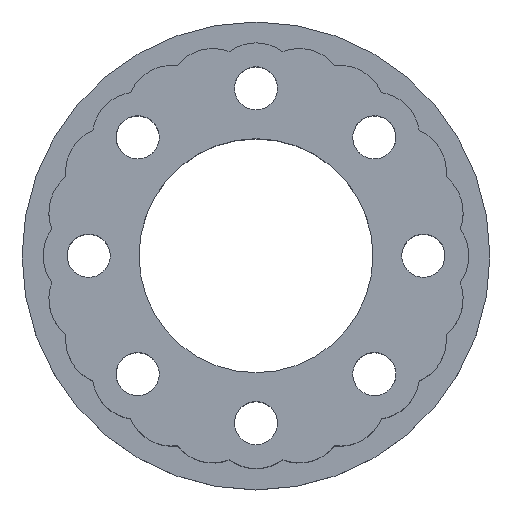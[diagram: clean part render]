
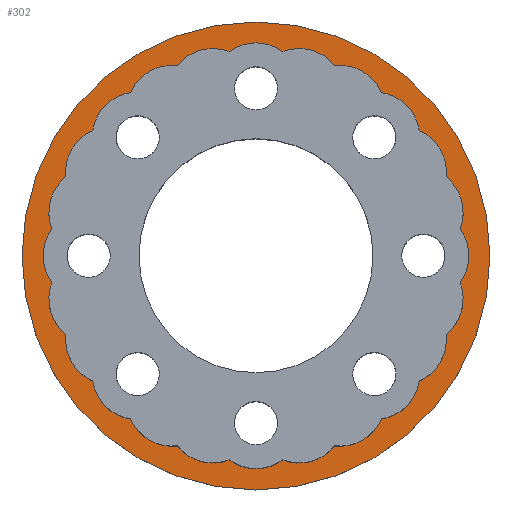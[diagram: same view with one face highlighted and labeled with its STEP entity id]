
A CAD part, top view. The second image highlights one B-rep face of the part: STEP entity #302.
In plain terms, the highlighted planar face has unit normal (0, 0, 1).
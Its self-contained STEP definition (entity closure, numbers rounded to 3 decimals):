
#68=CARTESIAN_POINT('',(0.0,0.0,-3.0));
#69=DIRECTION('',(0.0,0.0,1.0));
#70=DIRECTION('',(1.0,0.0,0.0));
#71=AXIS2_PLACEMENT_3D('',#68,#69,#70);
#72=PLANE('',#71);
#73=CARTESIAN_POINT('',(-13.0,0.,-3.0));
#74=VERTEX_POINT('',#73);
#75=CARTESIAN_POINT('',(0.0,0.0,-3.0));
#76=DIRECTION('',(0.0,0.0,-1.0));
#77=DIRECTION('',(1.0,0.0,0.0));
#78=AXIS2_PLACEMENT_3D('',#75,#76,#77);
#79=CIRCLE('',#78,13.0);
#80=EDGE_CURVE('',#74,#74,#79,.T.);
#81=ORIENTED_EDGE('',*,*,#80,.F.);
#82=EDGE_LOOP('',(#81));
#83=FACE_OUTER_BOUND('',#82,.T.);
#84=CARTESIAN_POINT('',(4.376,10.564,-3.0));
#85=VERTEX_POINT('',#84);
#86=CARTESIAN_POINT('',(1.493,11.337,-3.0));
#87=VERTEX_POINT('',#86);
#88=CARTESIAN_POINT('',(2.407,8.983,-3.0));
#89=DIRECTION('',(0.0,0.0,1.0));
#90=DIRECTION('',(-0.966,0.259,0.0));
#91=AXIS2_PLACEMENT_3D('',#88,#89,#90);
#92=CIRCLE('',#91,2.525);
#93=EDGE_CURVE('',#85,#87,#92,.T.);
#94=ORIENTED_EDGE('',*,*,#93,.F.);
#95=CARTESIAN_POINT('',(6.961,9.072,-3.0));
#96=VERTEX_POINT('',#95);
#97=CARTESIAN_POINT('',(4.65,8.054,-3.0));
#98=DIRECTION('',(0.0,0.0,1.));
#99=DIRECTION('',(-0.866,0.5,0.0));
#100=AXIS2_PLACEMENT_3D('',#97,#98,#99);
#101=CIRCLE('',#100,2.525);
#102=EDGE_CURVE('',#96,#85,#101,.T.);
#103=ORIENTED_EDGE('',*,*,#102,.F.);
#104=CARTESIAN_POINT('',(9.072,6.961,-3.0));
#105=VERTEX_POINT('',#104);
#106=CARTESIAN_POINT('',(6.576,6.576,-3.0));
#107=DIRECTION('',(0.0,0.0,1.0));
#108=DIRECTION('',(-0.707,0.707,0.0));
#109=AXIS2_PLACEMENT_3D('',#106,#107,#108);
#110=CIRCLE('',#109,2.525);
#111=EDGE_CURVE('',#105,#96,#110,.T.);
#112=ORIENTED_EDGE('',*,*,#111,.F.);
#113=CARTESIAN_POINT('',(10.564,4.376,-3.0));
#114=VERTEX_POINT('',#113);
#115=CARTESIAN_POINT('',(8.054,4.65,-3.0));
#116=DIRECTION('',(0.0,0.0,1.));
#117=DIRECTION('',(-0.5,0.866,0.0));
#118=AXIS2_PLACEMENT_3D('',#115,#116,#117);
#119=CIRCLE('',#118,2.525);
#120=EDGE_CURVE('',#114,#105,#119,.T.);
#121=ORIENTED_EDGE('',*,*,#120,.F.);
#122=CARTESIAN_POINT('',(11.337,1.493,-3.0));
#123=VERTEX_POINT('',#122);
#124=CARTESIAN_POINT('',(8.983,2.407,-3.0));
#125=DIRECTION('',(0.0,0.0,1.0));
#126=DIRECTION('',(-0.259,0.966,0.0));
#127=AXIS2_PLACEMENT_3D('',#124,#125,#126);
#128=CIRCLE('',#127,2.525);
#129=EDGE_CURVE('',#123,#114,#128,.T.);
#130=ORIENTED_EDGE('',*,*,#129,.F.);
#131=CARTESIAN_POINT('',(11.337,-1.493,-3.0));
#132=VERTEX_POINT('',#131);
#133=CARTESIAN_POINT('',(9.3,0.,-3.0));
#134=DIRECTION('',(0.0,0.0,1.0));
#135=DIRECTION('',(0.0,1.0,0.0));
#136=AXIS2_PLACEMENT_3D('',#133,#134,#135);
#137=CIRCLE('',#136,2.525);
#138=EDGE_CURVE('',#132,#123,#137,.T.);
#139=ORIENTED_EDGE('',*,*,#138,.F.);
#140=CARTESIAN_POINT('',(10.564,-4.376,-3.0));
#141=VERTEX_POINT('',#140);
#142=CARTESIAN_POINT('',(8.983,-2.407,-3.0));
#143=DIRECTION('',(0.0,0.0,1.0));
#144=DIRECTION('',(0.259,0.966,0.0));
#145=AXIS2_PLACEMENT_3D('',#142,#143,#144);
#146=CIRCLE('',#145,2.525);
#147=EDGE_CURVE('',#141,#132,#146,.T.);
#148=ORIENTED_EDGE('',*,*,#147,.F.);
#149=CARTESIAN_POINT('',(9.072,-6.961,-3.0));
#150=VERTEX_POINT('',#149);
#151=CARTESIAN_POINT('',(8.054,-4.65,-3.0));
#152=DIRECTION('',(0.0,0.0,1.));
#153=DIRECTION('',(0.5,0.866,0.0));
#154=AXIS2_PLACEMENT_3D('',#151,#152,#153);
#155=CIRCLE('',#154,2.525);
#156=EDGE_CURVE('',#150,#141,#155,.T.);
#157=ORIENTED_EDGE('',*,*,#156,.F.);
#158=CARTESIAN_POINT('',(6.961,-9.072,-3.0));
#159=VERTEX_POINT('',#158);
#160=CARTESIAN_POINT('',(6.576,-6.576,-3.0));
#161=DIRECTION('',(0.0,0.0,1.));
#162=DIRECTION('',(0.707,0.707,0.0));
#163=AXIS2_PLACEMENT_3D('',#160,#161,#162);
#164=CIRCLE('',#163,2.525);
#165=EDGE_CURVE('',#159,#150,#164,.T.);
#166=ORIENTED_EDGE('',*,*,#165,.F.);
#167=CARTESIAN_POINT('',(4.376,-10.564,-3.0));
#168=VERTEX_POINT('',#167);
#169=CARTESIAN_POINT('',(4.65,-8.054,-3.0));
#170=DIRECTION('',(0.0,0.0,1.));
#171=DIRECTION('',(0.866,0.5,0.0));
#172=AXIS2_PLACEMENT_3D('',#169,#170,#171);
#173=CIRCLE('',#172,2.525);
#174=EDGE_CURVE('',#168,#159,#173,.T.);
#175=ORIENTED_EDGE('',*,*,#174,.F.);
#176=CARTESIAN_POINT('',(1.493,-11.337,-3.0));
#177=VERTEX_POINT('',#176);
#178=CARTESIAN_POINT('',(2.407,-8.983,-3.0));
#179=DIRECTION('',(0.0,0.0,1.0));
#180=DIRECTION('',(0.966,0.259,0.0));
#181=AXIS2_PLACEMENT_3D('',#178,#179,#180);
#182=CIRCLE('',#181,2.525);
#183=EDGE_CURVE('',#177,#168,#182,.T.);
#184=ORIENTED_EDGE('',*,*,#183,.F.);
#185=CARTESIAN_POINT('',(-1.493,-11.337,-3.0));
#186=VERTEX_POINT('',#185);
#187=CARTESIAN_POINT('',(0.,-9.3,-3.0));
#188=DIRECTION('',(0.0,0.0,1.0));
#189=DIRECTION('',(1.0,0.0,0.0));
#190=AXIS2_PLACEMENT_3D('',#187,#188,#189);
#191=CIRCLE('',#190,2.525);
#192=EDGE_CURVE('',#186,#177,#191,.T.);
#193=ORIENTED_EDGE('',*,*,#192,.F.);
#194=CARTESIAN_POINT('',(-4.376,-10.564,-3.0));
#195=VERTEX_POINT('',#194);
#196=CARTESIAN_POINT('',(-2.407,-8.983,-3.0));
#197=DIRECTION('',(0.0,0.0,1.));
#198=DIRECTION('',(0.966,-0.259,0.0));
#199=AXIS2_PLACEMENT_3D('',#196,#197,#198);
#200=CIRCLE('',#199,2.525);
#201=EDGE_CURVE('',#195,#186,#200,.T.);
#202=ORIENTED_EDGE('',*,*,#201,.F.);
#203=CARTESIAN_POINT('',(-6.961,-9.072,-3.0));
#204=VERTEX_POINT('',#203);
#205=CARTESIAN_POINT('',(-4.65,-8.054,-3.0));
#206=DIRECTION('',(0.0,0.0,1.));
#207=DIRECTION('',(0.866,-0.5,0.0));
#208=AXIS2_PLACEMENT_3D('',#205,#206,#207);
#209=CIRCLE('',#208,2.525);
#210=EDGE_CURVE('',#204,#195,#209,.T.);
#211=ORIENTED_EDGE('',*,*,#210,.F.);
#212=CARTESIAN_POINT('',(-9.072,-6.961,-3.0));
#213=VERTEX_POINT('',#212);
#214=CARTESIAN_POINT('',(-6.576,-6.576,-3.0));
#215=DIRECTION('',(0.0,0.0,1.0));
#216=DIRECTION('',(0.707,-0.707,0.0));
#217=AXIS2_PLACEMENT_3D('',#214,#215,#216);
#218=CIRCLE('',#217,2.525);
#219=EDGE_CURVE('',#213,#204,#218,.T.);
#220=ORIENTED_EDGE('',*,*,#219,.F.);
#221=CARTESIAN_POINT('',(-10.564,-4.376,-3.0));
#222=VERTEX_POINT('',#221);
#223=CARTESIAN_POINT('',(-8.054,-4.65,-3.0));
#224=DIRECTION('',(0.0,0.0,1.));
#225=DIRECTION('',(0.5,-0.866,0.0));
#226=AXIS2_PLACEMENT_3D('',#223,#224,#225);
#227=CIRCLE('',#226,2.525);
#228=EDGE_CURVE('',#222,#213,#227,.T.);
#229=ORIENTED_EDGE('',*,*,#228,.F.);
#230=CARTESIAN_POINT('',(-11.337,-1.493,-3.0));
#231=VERTEX_POINT('',#230);
#232=CARTESIAN_POINT('',(-8.983,-2.407,-3.0));
#233=DIRECTION('',(0.0,0.0,1.0));
#234=DIRECTION('',(0.259,-0.966,0.0));
#235=AXIS2_PLACEMENT_3D('',#232,#233,#234);
#236=CIRCLE('',#235,2.525);
#237=EDGE_CURVE('',#231,#222,#236,.T.);
#238=ORIENTED_EDGE('',*,*,#237,.F.);
#239=CARTESIAN_POINT('',(-11.337,1.493,-3.0));
#240=VERTEX_POINT('',#239);
#241=CARTESIAN_POINT('',(-9.3,0.,-3.0));
#242=DIRECTION('',(0.0,0.0,1.0));
#243=DIRECTION('',(0.0,-1.0,0.0));
#244=AXIS2_PLACEMENT_3D('',#241,#242,#243);
#245=CIRCLE('',#244,2.525);
#246=EDGE_CURVE('',#240,#231,#245,.T.);
#247=ORIENTED_EDGE('',*,*,#246,.F.);
#248=CARTESIAN_POINT('',(-10.564,4.376,-3.0));
#249=VERTEX_POINT('',#248);
#250=CARTESIAN_POINT('',(-8.983,2.407,-3.0));
#251=DIRECTION('',(0.0,0.0,1.));
#252=DIRECTION('',(-0.259,-0.966,0.0));
#253=AXIS2_PLACEMENT_3D('',#250,#251,#252);
#254=CIRCLE('',#253,2.525);
#255=EDGE_CURVE('',#249,#240,#254,.T.);
#256=ORIENTED_EDGE('',*,*,#255,.F.);
#257=CARTESIAN_POINT('',(-9.072,6.961,-3.0));
#258=VERTEX_POINT('',#257);
#259=CARTESIAN_POINT('',(-8.054,4.65,-3.0));
#260=DIRECTION('',(0.0,0.0,1.0));
#261=DIRECTION('',(-0.5,-0.866,0.0));
#262=AXIS2_PLACEMENT_3D('',#259,#260,#261);
#263=CIRCLE('',#262,2.525);
#264=EDGE_CURVE('',#258,#249,#263,.T.);
#265=ORIENTED_EDGE('',*,*,#264,.F.);
#266=CARTESIAN_POINT('',(-6.961,9.072,-3.0));
#267=VERTEX_POINT('',#266);
#268=CARTESIAN_POINT('',(-6.576,6.576,-3.0));
#269=DIRECTION('',(0.0,0.0,1.0));
#270=DIRECTION('',(-0.707,-0.707,0.0));
#271=AXIS2_PLACEMENT_3D('',#268,#269,#270);
#272=CIRCLE('',#271,2.525);
#273=EDGE_CURVE('',#267,#258,#272,.T.);
#274=ORIENTED_EDGE('',*,*,#273,.F.);
#275=CARTESIAN_POINT('',(-4.376,10.564,-3.0));
#276=VERTEX_POINT('',#275);
#277=CARTESIAN_POINT('',(-4.65,8.054,-3.0));
#278=DIRECTION('',(0.0,0.0,1.0));
#279=DIRECTION('',(-0.866,-0.5,0.0));
#280=AXIS2_PLACEMENT_3D('',#277,#278,#279);
#281=CIRCLE('',#280,2.525);
#282=EDGE_CURVE('',#276,#267,#281,.T.);
#283=ORIENTED_EDGE('',*,*,#282,.F.);
#284=CARTESIAN_POINT('',(-1.493,11.337,-3.0));
#285=VERTEX_POINT('',#284);
#286=CARTESIAN_POINT('',(-2.407,8.983,-3.0));
#287=DIRECTION('',(0.0,0.0,1.0));
#288=DIRECTION('',(-0.966,-0.259,0.0));
#289=AXIS2_PLACEMENT_3D('',#286,#287,#288);
#290=CIRCLE('',#289,2.525);
#291=EDGE_CURVE('',#285,#276,#290,.T.);
#292=ORIENTED_EDGE('',*,*,#291,.F.);
#293=CARTESIAN_POINT('',(0.0,9.3,-3.0));
#294=DIRECTION('',(0.0,0.0,1.0));
#295=DIRECTION('',(-1.0,0.0,0.0));
#296=AXIS2_PLACEMENT_3D('',#293,#294,#295);
#297=CIRCLE('',#296,2.525);
#298=EDGE_CURVE('',#87,#285,#297,.T.);
#299=ORIENTED_EDGE('',*,*,#298,.F.);
#300=EDGE_LOOP('',(#94,#103,#112,#121,#130,#139,#148,#157,#166,#175,#184,#193,#202,#211,#220,#229,#238,#247,#256,#265,#274,#283,#292,#299));
#301=FACE_BOUND('',#300,.T.);
#302=ADVANCED_FACE('',(#83,#301),#72,.T.);
